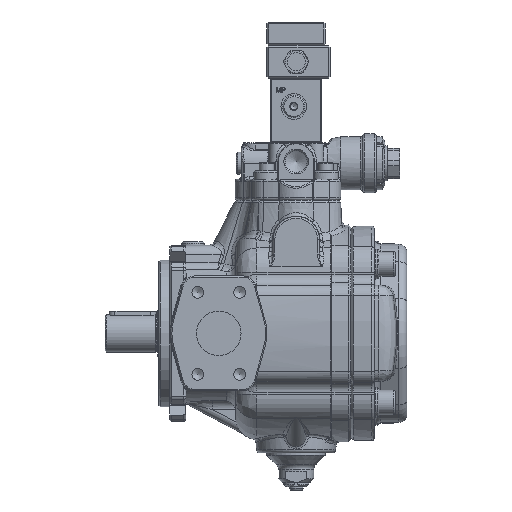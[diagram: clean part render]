
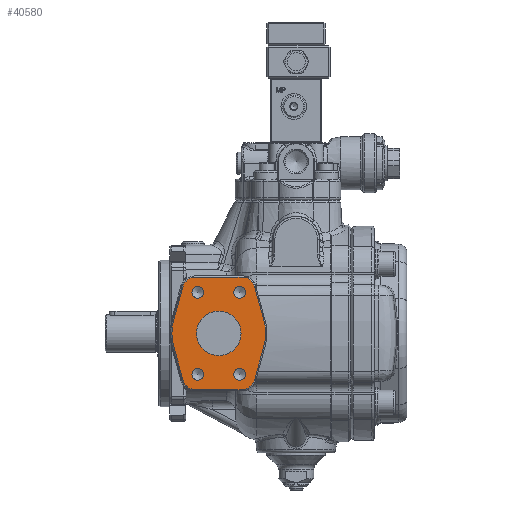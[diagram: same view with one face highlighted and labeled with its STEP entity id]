
A CAD part, left-side view. The second image highlights one B-rep face of the part: STEP entity #40580.
In plain terms, the highlighted planar face has unit normal (-1, 0, 0).
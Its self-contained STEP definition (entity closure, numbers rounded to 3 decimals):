
#1135=FACE_BOUND('',#5887,.T.);
#1136=FACE_BOUND('',#5888,.T.);
#1137=FACE_BOUND('',#5889,.T.);
#1138=FACE_BOUND('',#5890,.T.);
#1139=FACE_BOUND('',#5891,.T.);
#1632=PLANE('',#43715);
#3522=FACE_OUTER_BOUND('',#5886,.T.);
#5886=EDGE_LOOP('',(#30186,#30187,#30188,#30189,#30190,#30191,#30192,#30193,
#30194,#30195,#30196,#30197));
#5887=EDGE_LOOP('',(#30198));
#5888=EDGE_LOOP('',(#30199,#30200));
#5889=EDGE_LOOP('',(#30201,#30202));
#5890=EDGE_LOOP('',(#30203,#30204));
#5891=EDGE_LOOP('',(#30205,#30206));
#7543=CIRCLE('',#42504,19.);
#7724=CIRCLE('',#42799,5.053);
#7725=CIRCLE('',#42800,5.053);
#7728=CIRCLE('',#42805,5.053);
#7729=CIRCLE('',#42806,5.053);
#7732=CIRCLE('',#42811,5.053);
#7733=CIRCLE('',#42812,5.053);
#7736=CIRCLE('',#42817,5.053);
#7737=CIRCLE('',#42818,5.053);
#8253=CIRCLE('',#43716,11.);
#8254=CIRCLE('',#43717,40.);
#8255=CIRCLE('',#43718,11.);
#8256=CIRCLE('',#43719,11.);
#8257=CIRCLE('',#43720,40.);
#8258=CIRCLE('',#43721,11.);
#11269=LINE('',#73888,#13706);
#11270=LINE('',#73892,#13707);
#11271=LINE('',#73896,#13708);
#11272=LINE('',#73900,#13709);
#11273=LINE('',#73904,#13710);
#11274=LINE('',#73908,#13711);
#13706=VECTOR('',#50805,10.);
#13707=VECTOR('',#50808,10.);
#13708=VECTOR('',#50811,10.);
#13709=VECTOR('',#50814,10.);
#13710=VECTOR('',#50817,10.);
#13711=VECTOR('',#50820,10.);
#15835=VERTEX_POINT('',#60695);
#16041=VERTEX_POINT('',#62357);
#16042=VERTEX_POINT('',#62358);
#16046=VERTEX_POINT('',#62370);
#16047=VERTEX_POINT('',#62371);
#16051=VERTEX_POINT('',#62383);
#16052=VERTEX_POINT('',#62384);
#16056=VERTEX_POINT('',#62396);
#16057=VERTEX_POINT('',#62397);
#16903=VERTEX_POINT('',#73886);
#16904=VERTEX_POINT('',#73887);
#16905=VERTEX_POINT('',#73889);
#16906=VERTEX_POINT('',#73891);
#16907=VERTEX_POINT('',#73893);
#16908=VERTEX_POINT('',#73895);
#16909=VERTEX_POINT('',#73897);
#16910=VERTEX_POINT('',#73899);
#16911=VERTEX_POINT('',#73901);
#16912=VERTEX_POINT('',#73903);
#16913=VERTEX_POINT('',#73905);
#16914=VERTEX_POINT('',#73907);
#19908=EDGE_CURVE('',#15835,#15835,#7543,.T.);
#20236=EDGE_CURVE('',#16041,#16042,#7724,.T.);
#20237=EDGE_CURVE('',#16042,#16041,#7725,.T.);
#20242=EDGE_CURVE('',#16046,#16047,#7728,.T.);
#20243=EDGE_CURVE('',#16047,#16046,#7729,.T.);
#20248=EDGE_CURVE('',#16051,#16052,#7732,.T.);
#20249=EDGE_CURVE('',#16052,#16051,#7733,.T.);
#20254=EDGE_CURVE('',#16056,#16057,#7736,.T.);
#20255=EDGE_CURVE('',#16057,#16056,#7737,.T.);
#21679=EDGE_CURVE('',#16903,#16904,#11269,.T.);
#21680=EDGE_CURVE('',#16905,#16903,#8253,.T.);
#21681=EDGE_CURVE('',#16906,#16905,#11270,.T.);
#21682=EDGE_CURVE('',#16907,#16906,#8254,.T.);
#21683=EDGE_CURVE('',#16908,#16907,#11271,.T.);
#21684=EDGE_CURVE('',#16909,#16908,#8255,.T.);
#21685=EDGE_CURVE('',#16910,#16909,#11272,.T.);
#21686=EDGE_CURVE('',#16911,#16910,#8256,.T.);
#21687=EDGE_CURVE('',#16912,#16911,#11273,.T.);
#21688=EDGE_CURVE('',#16913,#16912,#8257,.T.);
#21689=EDGE_CURVE('',#16914,#16913,#11274,.T.);
#21690=EDGE_CURVE('',#16904,#16914,#8258,.T.);
#30186=ORIENTED_EDGE('',*,*,#21679,.F.);
#30187=ORIENTED_EDGE('',*,*,#21680,.F.);
#30188=ORIENTED_EDGE('',*,*,#21681,.F.);
#30189=ORIENTED_EDGE('',*,*,#21682,.F.);
#30190=ORIENTED_EDGE('',*,*,#21683,.F.);
#30191=ORIENTED_EDGE('',*,*,#21684,.F.);
#30192=ORIENTED_EDGE('',*,*,#21685,.F.);
#30193=ORIENTED_EDGE('',*,*,#21686,.F.);
#30194=ORIENTED_EDGE('',*,*,#21687,.F.);
#30195=ORIENTED_EDGE('',*,*,#21688,.F.);
#30196=ORIENTED_EDGE('',*,*,#21689,.F.);
#30197=ORIENTED_EDGE('',*,*,#21690,.F.);
#30198=ORIENTED_EDGE('',*,*,#19908,.T.);
#30199=ORIENTED_EDGE('',*,*,#20236,.T.);
#30200=ORIENTED_EDGE('',*,*,#20237,.T.);
#30201=ORIENTED_EDGE('',*,*,#20242,.T.);
#30202=ORIENTED_EDGE('',*,*,#20243,.T.);
#30203=ORIENTED_EDGE('',*,*,#20248,.T.);
#30204=ORIENTED_EDGE('',*,*,#20249,.T.);
#30205=ORIENTED_EDGE('',*,*,#20254,.T.);
#30206=ORIENTED_EDGE('',*,*,#20255,.T.);
#40580=ADVANCED_FACE('',(#3522,#1135,#1136,#1137,#1138,#1139),#1632,.F.);
#42504=AXIS2_PLACEMENT_3D('',#60696,#47871,#47872);
#42799=AXIS2_PLACEMENT_3D('',#62359,#48546,#48547);
#42800=AXIS2_PLACEMENT_3D('',#62360,#48548,#48549);
#42805=AXIS2_PLACEMENT_3D('',#62372,#48560,#48561);
#42806=AXIS2_PLACEMENT_3D('',#62373,#48562,#48563);
#42811=AXIS2_PLACEMENT_3D('',#62385,#48574,#48575);
#42812=AXIS2_PLACEMENT_3D('',#62386,#48576,#48577);
#42817=AXIS2_PLACEMENT_3D('',#62398,#48588,#48589);
#42818=AXIS2_PLACEMENT_3D('',#62399,#48590,#48591);
#43715=AXIS2_PLACEMENT_3D('',#73885,#50803,#50804);
#43716=AXIS2_PLACEMENT_3D('',#73890,#50806,#50807);
#43717=AXIS2_PLACEMENT_3D('',#73894,#50809,#50810);
#43718=AXIS2_PLACEMENT_3D('',#73898,#50812,#50813);
#43719=AXIS2_PLACEMENT_3D('',#73902,#50815,#50816);
#43720=AXIS2_PLACEMENT_3D('',#73906,#50818,#50819);
#43721=AXIS2_PLACEMENT_3D('',#73909,#50821,#50822);
#47871=DIRECTION('center_axis',(1.,0.,0.));
#47872=DIRECTION('ref_axis',(0.,-1.,0.));
#48546=DIRECTION('center_axis',(1.,0.,0.));
#48547=DIRECTION('ref_axis',(0.,0.,1.));
#48548=DIRECTION('center_axis',(1.,0.,0.));
#48549=DIRECTION('ref_axis',(0.,0.,1.));
#48560=DIRECTION('center_axis',(1.,0.,0.));
#48561=DIRECTION('ref_axis',(0.,0.,1.));
#48562=DIRECTION('center_axis',(1.,0.,0.));
#48563=DIRECTION('ref_axis',(0.,0.,1.));
#48574=DIRECTION('center_axis',(1.,0.,0.));
#48575=DIRECTION('ref_axis',(0.,0.,1.));
#48576=DIRECTION('center_axis',(1.,0.,0.));
#48577=DIRECTION('ref_axis',(0.,0.,1.));
#48588=DIRECTION('center_axis',(1.,0.,0.));
#48589=DIRECTION('ref_axis',(0.,0.,1.));
#48590=DIRECTION('center_axis',(1.,0.,0.));
#48591=DIRECTION('ref_axis',(0.,0.,1.));
#50803=DIRECTION('center_axis',(1.,0.,0.));
#50804=DIRECTION('ref_axis',(0.,0.,-1.));
#50805=DIRECTION('',(0.,1.,0.));
#50806=DIRECTION('center_axis',(1.,0.,0.));
#50807=DIRECTION('ref_axis',(0.,-0.964,-0.267));
#50808=DIRECTION('',(0.,0.267,-0.964));
#50809=DIRECTION('center_axis',(1.,0.,0.));
#50810=DIRECTION('ref_axis',(0.,-0.964,0.267));
#50811=DIRECTION('',(0.,-0.267,-0.964));
#50812=DIRECTION('center_axis',(1.,0.,0.));
#50813=DIRECTION('ref_axis',(0.,0.,1.));
#50814=DIRECTION('',(0.,-1.,0.));
#50815=DIRECTION('center_axis',(1.,0.,0.));
#50816=DIRECTION('ref_axis',(0.,0.964,0.267));
#50817=DIRECTION('',(0.,-0.267,0.964));
#50818=DIRECTION('center_axis',(1.,0.,0.));
#50819=DIRECTION('ref_axis',(0.,0.964,-0.267));
#50820=DIRECTION('',(0.,0.267,0.964));
#50821=DIRECTION('center_axis',(1.,0.,0.));
#50822=DIRECTION('ref_axis',(0.,0.,-1.));
#60695=CARTESIAN_POINT('',(-98.542,48.778,-9.476));
#60696=CARTESIAN_POINT('Origin',(-98.542,29.778,-9.476));
#62357=CARTESIAN_POINT('',(-98.542,47.628,-39.373));
#62358=CARTESIAN_POINT('',(-98.542,47.628,-49.479));
#62359=CARTESIAN_POINT('Origin',(-98.542,47.628,-44.426));
#62360=CARTESIAN_POINT('Origin',(-98.542,47.628,-44.426));
#62370=CARTESIAN_POINT('',(-98.542,11.928,30.527));
#62371=CARTESIAN_POINT('',(-98.542,11.928,20.421));
#62372=CARTESIAN_POINT('Origin',(-98.542,11.928,25.474));
#62373=CARTESIAN_POINT('Origin',(-98.542,11.928,25.474));
#62383=CARTESIAN_POINT('',(-98.542,47.628,30.527));
#62384=CARTESIAN_POINT('',(-98.542,47.628,20.421));
#62385=CARTESIAN_POINT('Origin',(-98.542,47.628,25.474));
#62386=CARTESIAN_POINT('Origin',(-98.542,47.628,25.474));
#62396=CARTESIAN_POINT('',(-98.542,11.928,-39.373));
#62397=CARTESIAN_POINT('',(-98.542,11.928,-49.479));
#62398=CARTESIAN_POINT('Origin',(-98.542,11.928,-44.426));
#62399=CARTESIAN_POINT('Origin',(-98.542,11.928,-44.426));
#73885=CARTESIAN_POINT('Origin',(-98.542,29.778,-9.476));
#73886=CARTESIAN_POINT('',(-98.542,9.928,-57.476));
#73887=CARTESIAN_POINT('',(-98.542,49.628,-57.476));
#73888=CARTESIAN_POINT('',(-98.542,19.853,-57.476));
#73889=CARTESIAN_POINT('',(-98.542,-0.673,-49.41));
#73890=CARTESIAN_POINT('Origin',(-98.542,9.928,-46.476));
#73891=CARTESIAN_POINT('',(-98.542,-8.772,-20.145));
#73892=CARTESIAN_POINT('',(-98.542,-8.772,-20.145));
#73893=CARTESIAN_POINT('',(-98.542,-8.772,1.194));
#73894=CARTESIAN_POINT('Origin',(-98.542,29.778,-9.476));
#73895=CARTESIAN_POINT('',(-98.542,-0.673,30.458));
#73896=CARTESIAN_POINT('',(-98.542,-4.723,15.826));
#73897=CARTESIAN_POINT('',(-98.542,9.928,38.524));
#73898=CARTESIAN_POINT('Origin',(-98.542,9.928,27.524));
#73899=CARTESIAN_POINT('',(-98.542,49.628,38.524));
#73900=CARTESIAN_POINT('',(-98.542,39.703,38.524));
#73901=CARTESIAN_POINT('',(-98.542,60.23,30.458));
#73902=CARTESIAN_POINT('Origin',(-98.542,49.628,27.524));
#73903=CARTESIAN_POINT('',(-98.542,68.329,1.194));
#73904=CARTESIAN_POINT('',(-98.542,68.329,1.194));
#73905=CARTESIAN_POINT('',(-98.542,68.329,-20.145));
#73906=CARTESIAN_POINT('Origin',(-98.542,29.778,-9.476));
#73907=CARTESIAN_POINT('',(-98.542,60.23,-49.41));
#73908=CARTESIAN_POINT('',(-98.542,64.279,-34.777));
#73909=CARTESIAN_POINT('Origin',(-98.542,49.628,-46.476));
